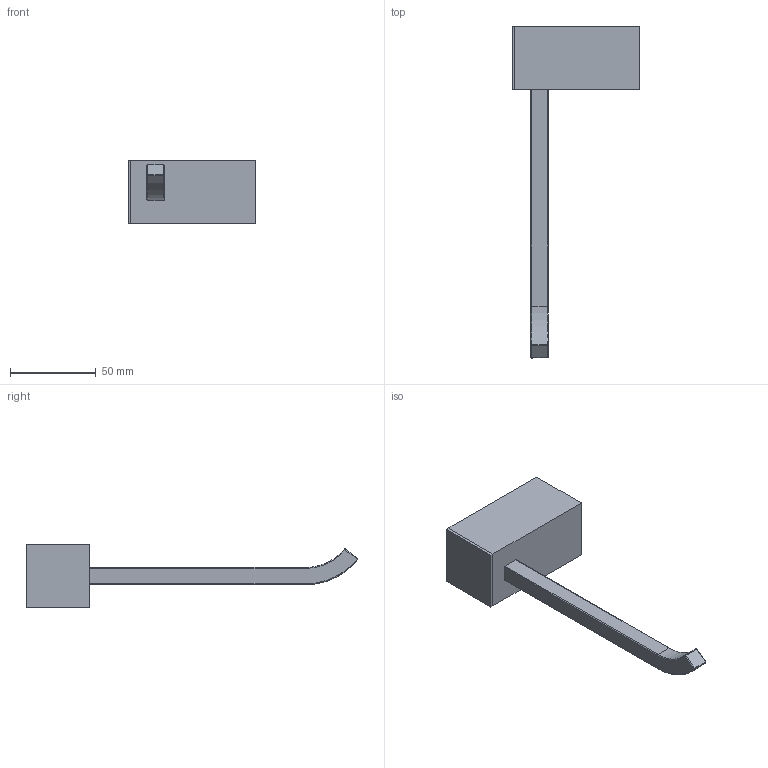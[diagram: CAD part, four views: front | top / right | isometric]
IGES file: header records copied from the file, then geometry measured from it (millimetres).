
Start section: Autodesk Alias AutoStudio 2020 (Build: 201905142046-4cbec609ad) Autodesk Translation Framework 8.4.1.1053
Global section: file name: 12126110; native system: unknown; preprocessor: unknown; author: unknown; organization: unknown; date: 20220929.161059; units: millimetre
Bounding box: 74.6 x 193.5 x 37 mm (x, y, z)
Surface area: 39819.9 mm2 (no closed solid volume)
Topology: 0 solids, 2 shells, 44 faces, 101 edges, 54 vertices
Faces by surface type: bspline 44
